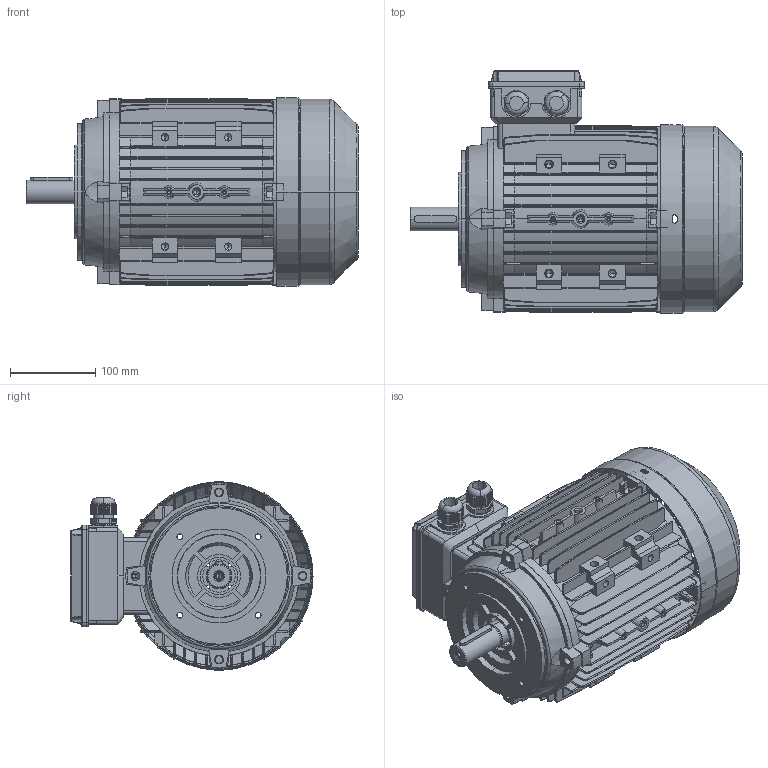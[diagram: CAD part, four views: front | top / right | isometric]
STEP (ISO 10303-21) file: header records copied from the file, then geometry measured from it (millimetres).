
FILE_DESCRIPTION (( 'STEP AP203' ), '1' );
FILE_NAME ('ME112M-2¡¢6P B14.STEP', '2014-08-18T11:21:43', ( '' ), ( '' ), 'SwSTEP 2.0', 'SolidWorks 2010', '' );
FILE_SCHEMA (( 'CONFIG_CONTROL_DESIGN' ));
Products named in the file (8): MS132諉盄碟裔; M112傷裔B14 ; M112-Shaft drive end; ME112M-2﹜6P B14; M112儂褲; M112瑞欶_95; MS132諉盄碟釱_2Holes; M25 cable gland
Assembly tree (8 placements, depth 2):
  ME112M-2﹜6P B14
    M25 cable gland  x2
    M112瑞欶_95
    MS132諉盄碟釱_2Holes
    MS132諉盄碟裔
    M112儂褲
    M112-Shaft drive end
    M112傷裔B14 
Bounding box: 389 x 283.75 x 220.5 mm (x, y, z)
Volume: 1605080.4 mm3; surface area: 950425 mm2
Topology: 10 solids, 10 shells, 3294 faces, 8817 edges, 5531 vertices
Faces by surface type: plane 1587, cylinder 876, bspline 452, cone 212, sphere 102, torus 65
Entity records: 146749 total; most frequent: CARTESIAN_POINT 75078, ORIENTED_EDGE 15540, DIRECTION 13338, EDGE_CURVE 7770, VERTEX_POINT 4897, AXIS2_PLACEMENT_3D 4466, VECTOR 4406, LINE 4406
